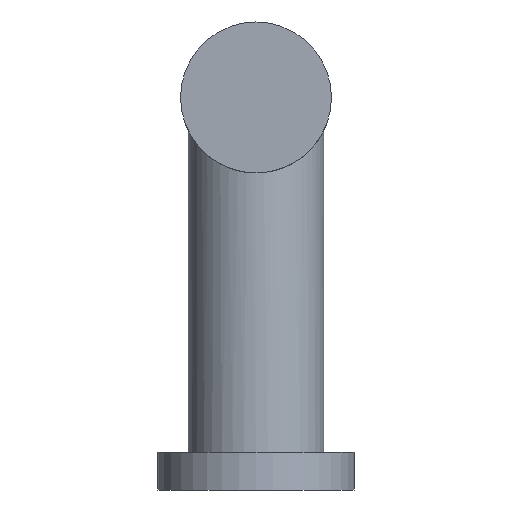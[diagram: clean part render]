
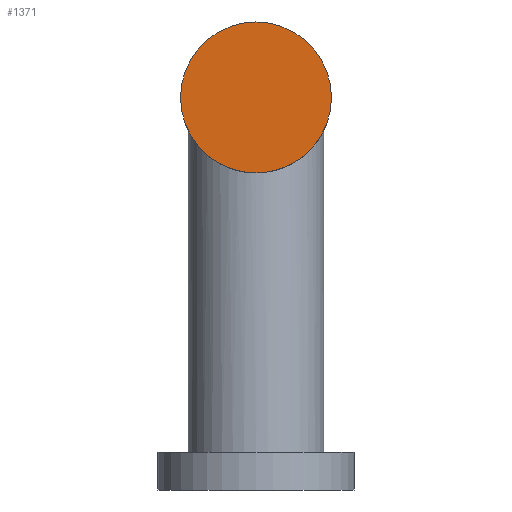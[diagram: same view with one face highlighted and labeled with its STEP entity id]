
A CAD part, left-side view. The second image highlights one B-rep face of the part: STEP entity #1371.
In plain terms, the highlighted planar face has unit normal (-1, 0, 0).
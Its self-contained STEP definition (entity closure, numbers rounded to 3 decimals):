
#32 = CYLINDRICAL_SURFACE('',#33,10.);
#33 = AXIS2_PLACEMENT_3D('',#34,#35,#36);
#34 = CARTESIAN_POINT('',(-70.,0.,52.));
#35 = DIRECTION('',(-1.,-0.,0.));
#36 = DIRECTION('',(0.,0.,-1.));
#329 = VERTEX_POINT('',#330);
#330 = CARTESIAN_POINT('',(-70.,0.,42.));
#351 = EDGE_CURVE('',#329,#329,#352,.T.);
#352 = SURFACE_CURVE('',#353,(#358,#365),.PCURVE_S1.);
#353 = CIRCLE('',#354,10.);
#354 = AXIS2_PLACEMENT_3D('',#355,#356,#357);
#355 = CARTESIAN_POINT('',(-70.,0.,52.));
#356 = DIRECTION('',(1.,-0.,0.));
#357 = DIRECTION('',(0.,0.,-1.));
#358 = PCURVE('',#32,#359);
#359 = DEFINITIONAL_REPRESENTATION('',(#360),#364);
#360 = LINE('',#361,#362);
#361 = CARTESIAN_POINT('',(-0.,0.));
#362 = VECTOR('',#363,1.);
#363 = DIRECTION('',(-1.,0.));
#364 = ( GEOMETRIC_REPRESENTATION_CONTEXT(2) 
PARAMETRIC_REPRESENTATION_CONTEXT() REPRESENTATION_CONTEXT('2D SPACE',''
  ) );
#365 = PCURVE('',#366,#371);
#366 = PLANE('',#367);
#367 = AXIS2_PLACEMENT_3D('',#368,#369,#370);
#368 = CARTESIAN_POINT('',(-70.,0.,52.));
#369 = DIRECTION('',(1.,0.,0.));
#370 = DIRECTION('',(0.,0.,-1.));
#371 = DEFINITIONAL_REPRESENTATION('',(#372),#376);
#372 = CIRCLE('',#373,10.);
#373 = AXIS2_PLACEMENT_2D('',#374,#375);
#374 = CARTESIAN_POINT('',(0.,0.));
#375 = DIRECTION('',(1.,0.));
#376 = ( GEOMETRIC_REPRESENTATION_CONTEXT(2) 
PARAMETRIC_REPRESENTATION_CONTEXT() REPRESENTATION_CONTEXT('2D SPACE',''
  ) );
#1371 = ADVANCED_FACE('',(#1372),#366,.F.);
#1372 = FACE_BOUND('',#1373,.F.);
#1373 = EDGE_LOOP('',(#1374));
#1374 = ORIENTED_EDGE('',*,*,#351,.T.);
